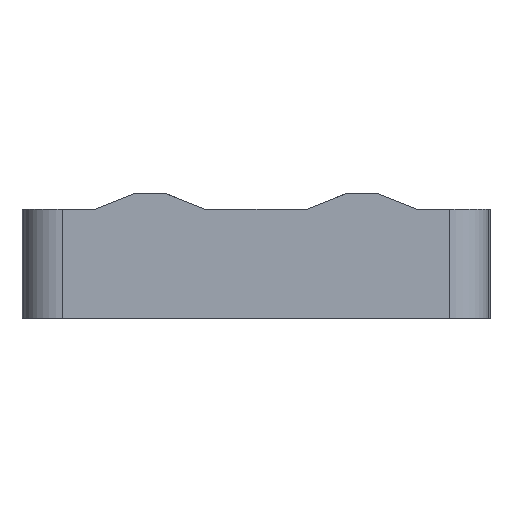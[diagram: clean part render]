
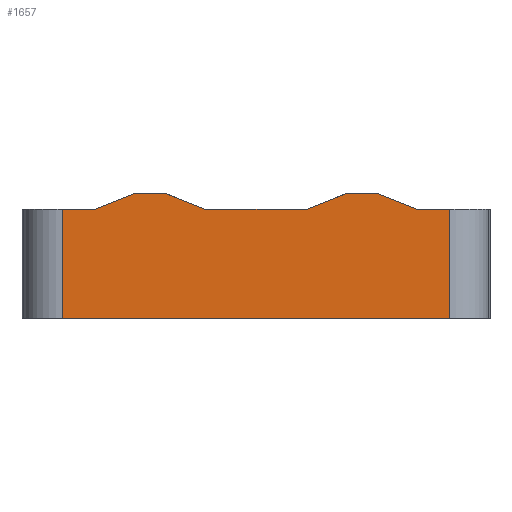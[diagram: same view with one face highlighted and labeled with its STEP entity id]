
A CAD part, front view. The second image highlights one B-rep face of the part: STEP entity #1657.
In plain terms, the highlighted planar face has unit normal (0, -1, 0).
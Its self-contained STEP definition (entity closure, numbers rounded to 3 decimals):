
#43=LINE('',#2720,#137);
#46=LINE('',#2725,#140);
#48=LINE('',#2729,#142);
#54=LINE('',#2745,#148);
#61=LINE('',#3234,#155);
#63=LINE('',#3238,#157);
#65=LINE('',#3242,#159);
#73=LINE('',#3270,#167);
#75=LINE('',#3304,#169);
#76=LINE('',#3306,#170);
#77=LINE('',#3308,#171);
#78=LINE('',#3309,#172);
#137=VECTOR('',#1931,10.);
#140=VECTOR('',#1936,10.);
#142=VECTOR('',#1940,10.);
#148=VECTOR('',#1952,10.);
#155=VECTOR('',#2027,10.);
#157=VECTOR('',#2031,10.);
#159=VECTOR('',#2035,10.);
#167=VECTOR('',#2057,10.);
#169=VECTOR('',#2075,10.);
#170=VECTOR('',#2076,10.);
#171=VECTOR('',#2077,10.);
#172=VECTOR('',#2078,10.);
#239=PLANE('',#1801);
#325=FACE_OUTER_BOUND('',#413,.T.);
#413=EDGE_LOOP('',(#1331,#1332,#1333,#1334,#1335,#1336,#1337,#1338,#1339,
#1340,#1341,#1342));
#665=VERTEX_POINT('',#2717);
#666=VERTEX_POINT('',#2719);
#667=VERTEX_POINT('',#2723);
#668=VERTEX_POINT('',#2727);
#675=VERTEX_POINT('',#2743);
#725=VERTEX_POINT('',#3232);
#726=VERTEX_POINT('',#3236);
#727=VERTEX_POINT('',#3240);
#740=VERTEX_POINT('',#3268);
#746=VERTEX_POINT('',#3303);
#747=VERTEX_POINT('',#3305);
#748=VERTEX_POINT('',#3307);
#858=EDGE_CURVE('',#665,#666,#43,.T.);
#861=EDGE_CURVE('',#667,#665,#46,.T.);
#863=EDGE_CURVE('',#668,#667,#48,.T.);
#871=EDGE_CURVE('',#675,#668,#54,.T.);
#943=EDGE_CURVE('',#725,#675,#61,.T.);
#945=EDGE_CURVE('',#726,#725,#63,.T.);
#947=EDGE_CURVE('',#727,#726,#65,.T.);
#961=EDGE_CURVE('',#740,#727,#73,.T.);
#971=EDGE_CURVE('',#746,#740,#75,.T.);
#972=EDGE_CURVE('',#746,#747,#76,.T.);
#973=EDGE_CURVE('',#748,#747,#77,.T.);
#974=EDGE_CURVE('',#666,#748,#78,.T.);
#1331=ORIENTED_EDGE('',*,*,#943,.F.);
#1332=ORIENTED_EDGE('',*,*,#945,.F.);
#1333=ORIENTED_EDGE('',*,*,#947,.F.);
#1334=ORIENTED_EDGE('',*,*,#961,.F.);
#1335=ORIENTED_EDGE('',*,*,#971,.F.);
#1336=ORIENTED_EDGE('',*,*,#972,.T.);
#1337=ORIENTED_EDGE('',*,*,#973,.F.);
#1338=ORIENTED_EDGE('',*,*,#974,.F.);
#1339=ORIENTED_EDGE('',*,*,#858,.F.);
#1340=ORIENTED_EDGE('',*,*,#861,.F.);
#1341=ORIENTED_EDGE('',*,*,#863,.F.);
#1342=ORIENTED_EDGE('',*,*,#871,.F.);
#1657=ADVANCED_FACE('',(#325),#239,.T.);
#1801=AXIS2_PLACEMENT_3D('',#3302,#2073,#2074);
#1931=DIRECTION('',(0.928,0.,-0.371));
#1936=DIRECTION('',(1.,0.,0.));
#1940=DIRECTION('',(0.928,0.,0.371));
#1952=DIRECTION('',(1.,0.,0.));
#2027=DIRECTION('',(0.928,0.,-0.371));
#2031=DIRECTION('',(1.,0.,0.));
#2035=DIRECTION('',(0.928,0.,0.371));
#2057=DIRECTION('',(1.,0.,0.));
#2073=DIRECTION('center_axis',(0.,-1.,0.));
#2074=DIRECTION('ref_axis',(1.,0.,0.));
#2075=DIRECTION('',(0.,0.,1.));
#2076=DIRECTION('',(1.,0.,0.));
#2077=DIRECTION('',(0.,0.,-1.));
#2078=DIRECTION('',(1.,0.,0.));
#2717=CARTESIAN_POINT('',(455.5,0.,160.));
#2719=CARTESIAN_POINT('',(505.5,0.,140.));
#2720=CARTESIAN_POINT('',(300.112,0.,222.155));
#2723=CARTESIAN_POINT('',(415.5,0.,160.));
#2725=CARTESIAN_POINT('',(505.5,0.,160.));
#2727=CARTESIAN_POINT('',(365.5,0.,140.));
#2729=CARTESIAN_POINT('',(197.181,0.,72.672));
#2743=CARTESIAN_POINT('',(234.5,0.,140.));
#2745=CARTESIAN_POINT('',(2.,0.,140.));
#3232=CARTESIAN_POINT('',(184.5,0.,160.));
#3234=CARTESIAN_POINT('',(145.922,0.,175.431));
#3236=CARTESIAN_POINT('',(144.5,0.,160.));
#3238=CARTESIAN_POINT('',(94.5,0.,160.));
#3240=CARTESIAN_POINT('',(94.5,0.,140.));
#3242=CARTESIAN_POINT('',(42.991,0.,119.397));
#3268=CARTESIAN_POINT('',(52.,0.,140.));
#3270=CARTESIAN_POINT('',(2.,0.,140.));
#3302=CARTESIAN_POINT('Origin',(2.,0.,0.));
#3303=CARTESIAN_POINT('',(52.,0.,0.));
#3304=CARTESIAN_POINT('',(52.,0.,0.));
#3305=CARTESIAN_POINT('',(548.,0.,0.));
#3306=CARTESIAN_POINT('',(2.,0.,0.));
#3307=CARTESIAN_POINT('',(548.,0.,140.));
#3308=CARTESIAN_POINT('',(548.,0.,0.));
#3309=CARTESIAN_POINT('',(2.,0.,140.));
